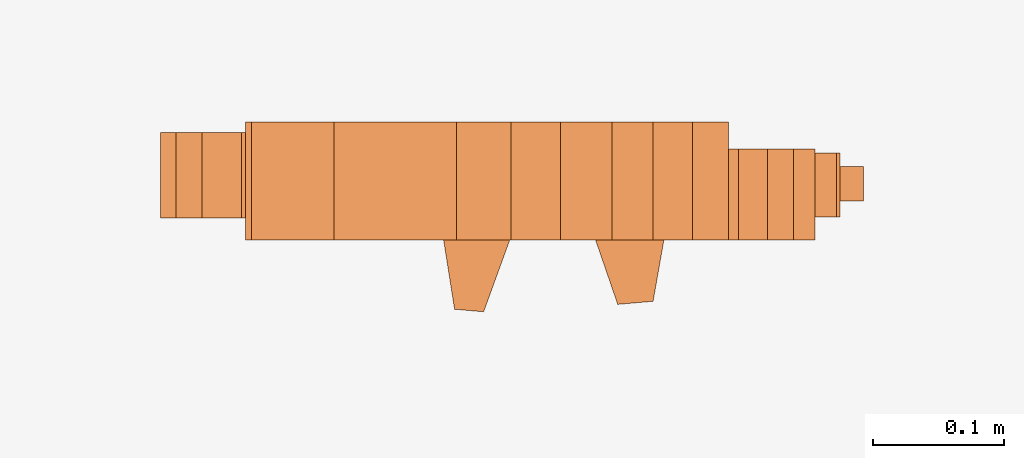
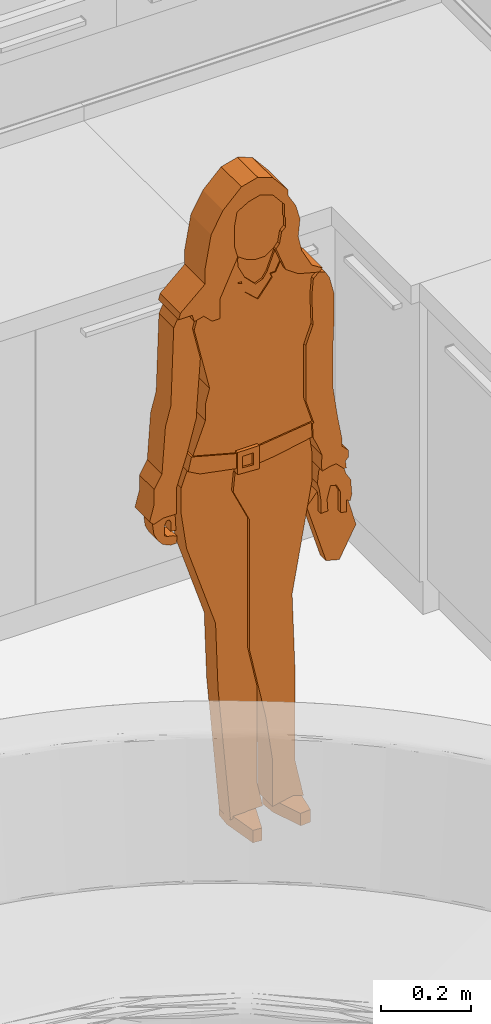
# One storey, part 7 of 7: 1 proxy.
"""IFC2X3 building model written with IfcOpenShell, lengths in metres."""

from ifc_helpers import new_model, entity, si_unit, converted_unit, derived_unit, direction, frame, origin, place, context, subcontext, project, spatial, polyline, outline, extrude, source, transform, mapped, material, material_list, type_object, type_shapes, element, save


model = new_model("IFC2X3")

# Units and contexts
model_context = context("Model", 3, precision=1e-05, world=origin(), true_north=direction((6.123233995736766e-17, 1.0)))
body_context = subcontext(model_context, "Body", "Model", "MODEL_VIEW")
ifc_project = project(units=[si_unit("LENGTHUNIT", "METRE"), si_unit("AREAUNIT", "SQUARE_METRE"), converted_unit("PLANEANGLEUNIT", "DEGREE", entity("IfcPlaneAngleMeasure", 0.017453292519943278), si_unit("PLANEANGLEUNIT", "RADIAN"), dimensions=[0, 0, 0, 0, 0, 0, 0]), derived_unit("THERMALTRANSMITTANCEUNIT", [(si_unit("MASSUNIT", "GRAM", prefix="KILO"), 1), (si_unit("THERMODYNAMICTEMPERATUREUNIT", "KELVIN"), -1), (si_unit("TIMEUNIT", "SECOND"), -3)])], contexts=[model_context])

# Site, building, storey
site_placement = place(None, origin())
site = spatial("IfcSite", under=ifc_project, at=site_placement, Name="Default", CompositionType="ELEMENT")
building_placement = place(site_placement, origin())
building = spatial("IfcBuilding", under=site, at=building_placement, CompositionType="ELEMENT")
storey_placement = place(building_placement, origin())
storey = spatial("IfcBuildingStorey", under=building, at=storey_placement, Name="0 - Ground Floor", CompositionType="ELEMENT", Elevation=0.0)

# Proxy
ifc_material_1 = material(Name="Fabric - Red Brown")
ifc_material_2 = material(Name="Fabric - Dark Skin")
ifc_material_3 = material(Name="Fabric - White")
ifc_material_4 = material(Name="Fabric - Suit Green")
ifc_material_5 = material(Name="Fabric - Black")
ifc_material_6 = material(Name="Fabric - Yellow")
ifc_material_list = material_list([ifc_material_1, ifc_material_2, ifc_material_3, ifc_material_4, ifc_material_5, ifc_material_6])
building_element_proxy_type = type_object("IfcBuildingElementProxyType", Name="3D_Dian:Man", PredefinedType="NOTDEFINED", material=ifc_material_list)
shared_shape = source(origin(), body_context, "Body", "SweptSolid", [
    extrude(outline(polyline([(0.1589902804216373, -0.12666842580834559), (0.19372516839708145, -0.12666842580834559), (0.18947541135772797, -0.11080811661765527), (0.1263081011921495, -0.053932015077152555), (0.12630810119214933, -0.0139320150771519), (0.11067976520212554, 0.07470068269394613), (0.08002888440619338, 0.12999633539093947), (0.03308580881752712, 0.17693941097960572), (-0.008838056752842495, 0.18817287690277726), (-0.04657023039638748, 0.17443948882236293), (-0.08579704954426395, 0.12769078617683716), (-0.08579704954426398, 0.11282751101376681), (-0.10626665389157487, 0.07737311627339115), (-0.11697891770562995, 0.037394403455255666), (-0.11227513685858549, -0.007359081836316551), (-0.12115805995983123, -0.04914994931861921), (-0.147052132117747, -0.09784961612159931), (-0.17446588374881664, -0.11497962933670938), (-0.16603982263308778, -0.12340569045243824), (-0.11291390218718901, -0.1091706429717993), (-0.08014782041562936, -0.08622758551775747), (-0.055518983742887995, -0.022067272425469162), (-0.06456415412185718, -0.010897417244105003), (-0.06977359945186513, 0.018646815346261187), (-0.0801478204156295, 0.029021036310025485), (-0.08014782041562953, 0.0543617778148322), (-0.07705903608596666, 0.05745056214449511), (-0.07705903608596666, 0.09143263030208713), (-0.0478159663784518, 0.12628316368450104), (-0.014926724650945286, 0.1382538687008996), (0.014051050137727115, 0.13048929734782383), (0.04436193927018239, 0.11298929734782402), (0.05032831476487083, 0.07915230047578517), (0.0503283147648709, 0.019152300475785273), (0.042563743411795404, -0.00982547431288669), (0.08818672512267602, -0.10766427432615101), (0.08818672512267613, -0.16065844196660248), (0.10818672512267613, -0.16065844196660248), (0.12939992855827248, -0.139445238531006), (0.15381389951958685, -0.14598694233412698), (0.1589902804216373, -0.12666842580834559)])), frame((-0.03709830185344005, -0.05, 1.5664962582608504), z_axis=(0.0, 1.0, 0.0), x_axis=(-1.0, 0.0, 0.0)), (0.0, 0.0, 1.0), 0.08999999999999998),
    extrude(outline(polyline([(-0.010593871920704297, -0.10141785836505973), (0.019406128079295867, -0.10141785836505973), (0.04962252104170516, -0.08175695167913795), (0.06884917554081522, -0.04052525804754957), (0.060053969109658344, -0.007701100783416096), (0.06223806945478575, -0.003918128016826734), (0.05567940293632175, 0.020559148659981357), (0.04297362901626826, 0.027894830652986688), (0.030295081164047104, 0.05508406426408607), (0.018667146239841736, 0.06353225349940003), (0.005405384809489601, 0.06862296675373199), (-0.008598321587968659, 0.07399848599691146), (-0.030740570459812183, 0.06806548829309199), (-0.050364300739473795, 0.05580322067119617), (-0.06685213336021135, 0.03683613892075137), (-0.07290508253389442, 0.024425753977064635), (-0.07290508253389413, -0.00367809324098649), (-0.05737593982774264, -0.06163364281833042), (-0.04285520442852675, -0.0927734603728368), (-0.010593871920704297, -0.10141785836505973)])), frame((-0.016053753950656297, -0.041239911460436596, 1.6009650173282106), z_axis=(0.0, 1.0, 0.0), x_axis=(0.9659258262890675, 0.0, 0.2588190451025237)), (0.0, 0.0, 1.0), 0.06576207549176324),
    extrude(outline(polyline([(-0.02608252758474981, 0.012991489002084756), (-0.04994405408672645, 0.02028668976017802), (-0.04994405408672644, 0.011563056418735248), (-0.04241204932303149, -0.006181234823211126), (-0.017553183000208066, -0.033789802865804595), (0.017764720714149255, -0.05256866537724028), (0.033524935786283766, -0.0402554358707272), (0.03937236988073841, -0.021129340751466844), (0.04320897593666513, 0.03373668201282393), (0.03619613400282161, 0.042712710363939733), (0.018811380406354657, 0.019642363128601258), (-0.0029426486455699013, 0.012991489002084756), (-0.02608252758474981, 0.012991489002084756)])), frame((-0.029114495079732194, -0.03349859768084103, 1.513978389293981), z_axis=(0.0, -1.0, 0.0), x_axis=(0.9563047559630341, 0.0, -0.2923717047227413)), (0.0, 0.0, -1.0), 0.05278045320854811),
    extrude(outline(polyline([(-0.03755104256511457, -0.0568855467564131), (-0.009195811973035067, -0.0568855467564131), (-0.00357895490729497, -0.04529965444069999), (0.00454244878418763, -0.05396750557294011), (0.06229267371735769, -0.04154915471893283), (0.04940847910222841, 0.0029846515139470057), (0.026623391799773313, 0.02122789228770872), (0.030985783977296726, 0.03022619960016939), (-0.006072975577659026, 0.06977845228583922), (-0.037854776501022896, 0.07025784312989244), (-0.03385230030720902, 0.05872271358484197), (-0.025184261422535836, 0.05737088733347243), (-0.008198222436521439, 0.04681273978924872), (0.014964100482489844, 0.01724091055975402), (0.027713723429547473, -0.019503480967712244), (0.013119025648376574, -0.0331780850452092), (-0.006679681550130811, -0.03600849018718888), (-0.061481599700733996, -0.031344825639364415), (-0.03755104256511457, -0.0568855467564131)])), frame((-0.03295561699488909, -0.03825621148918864, 1.491958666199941), z_axis=(0.0, 1.0, 0.0), x_axis=(-0.43623921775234, 0.0, -0.8998307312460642)), (0.0, 0.0, 1.0), 0.07019164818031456),
    extrude(outline(polyline([(-0.022237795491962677, 0.1583555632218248), (-0.04048523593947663, 0.17066361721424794), (-0.03598312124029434, 0.14266808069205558), (-0.04653022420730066, 0.13528291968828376), (-0.03668284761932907, 0.12864078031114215), (-0.03977434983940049, 0.06965140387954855), (-0.0857889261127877, 0.07530128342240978), (-0.1052499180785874, 0.09293574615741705), (-0.11560997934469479, 0.08916499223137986), (-0.1605445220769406, 0.11947372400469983), (-0.14731813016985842, 0.044463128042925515), (-0.11692192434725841, 0.001052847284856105), (-0.13330496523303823, -0.010418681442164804), (-0.16822486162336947, -0.004261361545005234), (-0.16986662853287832, -0.01357228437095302), (-0.15792212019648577, -0.04638955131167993), (-0.027871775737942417, -0.16348740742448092), (-0.013950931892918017, -0.20188378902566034), (0.011860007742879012, -0.2387456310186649), (0.03372158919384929, -0.32642764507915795), (0.13714088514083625, -0.28893234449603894), (0.18629000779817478, -0.25451775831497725), (0.2903302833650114, -0.16083947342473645), (0.23298129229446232, -0.11603353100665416), (0.14967414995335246, 0.0029413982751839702), (0.1357852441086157, 0.05477550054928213), (0.11571006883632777, 0.08344582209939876), (0.08862839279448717, 0.11938442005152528), (0.06612839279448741, 0.15835556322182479), (0.06944529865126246, 0.17716667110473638), (0.017762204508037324, 0.15835556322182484), (-0.022237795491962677, 0.1583555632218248)])), frame((-0.03011208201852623, -0.041239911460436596, 1.3379117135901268), z_axis=(0.0, -1.0, 0.0), x_axis=(0.819152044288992, 0.0, -0.5735764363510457)), (0.0, 0.0, -1.0), 0.06576207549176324),
    extrude(outline(polyline([(-0.26499845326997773, 0.1029186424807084), (-0.27024106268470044, 0.08335295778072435), (-0.26581516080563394, 0.07568707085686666), (-0.2449984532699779, 0.05821977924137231), (-0.045447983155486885, -0.0027889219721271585), (0.001529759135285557, -0.02991153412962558), (0.11971958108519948, -0.07060755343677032), (0.14800385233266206, -0.09889182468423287), (0.1866408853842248, -0.10924458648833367), (0.2256120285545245, -0.13174458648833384), (0.23860240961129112, -0.12424458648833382), (0.2364450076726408, -0.09958536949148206), (0.2455036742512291, -0.06577796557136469), (0.21169627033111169, -0.05671929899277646), (0.17788886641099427, -0.04766063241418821), (0.10442721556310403, 4.5921455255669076e-05), (0.02215480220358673, 0.04754592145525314), (0.00283628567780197, 0.052722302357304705), (-0.12480872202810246, 0.09667400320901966), (-0.21475389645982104, 0.09981495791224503), (-0.2449984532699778, 0.11727666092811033), (-0.24499845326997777, 0.1029186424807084), (-0.26499845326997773, 0.1029186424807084)])), frame((-0.22691371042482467, -0.033498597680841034, 1.157221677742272), z_axis=(0.0, -1.0, 0.0), x_axis=(0.25881904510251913, 0.0, -0.9659258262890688)), (0.0, 0.0, -1.0), 0.06543403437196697),
    extrude(outline(polyline([(-0.01629762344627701, -0.04155939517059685), (0.018702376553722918, -0.04155939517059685), (0.020010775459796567, -0.01659365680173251), (0.021319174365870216, 0.008372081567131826), (0.007739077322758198, 0.005977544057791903), (0.008860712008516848, -0.0068427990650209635), (0.008860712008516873, -0.018038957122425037), (0.004336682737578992, -0.025874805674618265), (-0.0028961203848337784, -0.025874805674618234), (-0.007658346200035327, -0.015662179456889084), (-0.007658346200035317, -0.004465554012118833), (-0.007658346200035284, 0.012765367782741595), (-0.0014079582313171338, 0.0171419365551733), (0.013205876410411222, 0.01971874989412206), (0.02425379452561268, 0.024870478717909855), (0.022634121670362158, 0.043383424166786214), (0.006336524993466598, 0.04338342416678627), (-0.012619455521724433, 0.034544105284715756), (-0.025190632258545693, 0.02008262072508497), (-0.035314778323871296, -0.0006749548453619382), (-0.03955822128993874, -0.03309322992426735), (-0.01629762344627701, -0.04155939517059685)])), frame((-0.24561169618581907, -0.02666762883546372, 0.8614993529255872), z_axis=(0.0, 1.0, 0.0), x_axis=(1.0, 0.0, 0.0)), (0.0, 0.0, 1.0), 0.03872166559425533),
    extrude(outline(polyline([(-0.057351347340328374, 0.05061627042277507), (-0.0665862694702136, 0.03879610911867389), (-0.0748722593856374, 0.024444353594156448), (-0.06760440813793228, 0.011856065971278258), (-0.04783312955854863, -0.012559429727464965), (-0.0338607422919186, -0.019988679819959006), (-0.006546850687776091, -0.04057117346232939), (0.018201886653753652, -0.06531991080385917), (0.029844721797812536, -0.05192636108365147), (0.005499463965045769, -0.030763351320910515), (-0.005901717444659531, -0.011015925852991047), (-0.011908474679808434, -0.0006119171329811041), (0.001868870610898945, 0.007342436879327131), (0.025361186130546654, -0.0012080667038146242), (0.06425205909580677, -0.040098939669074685), (0.07720809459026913, -0.032618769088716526), (0.05386974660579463, -0.009280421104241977), (0.06485680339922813, -0.006336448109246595), (0.05645858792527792, 0.008209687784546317), (0.026270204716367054, 0.034452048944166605), (0.002053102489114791, 0.04094100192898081), (-0.024435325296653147, 0.055025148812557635), (-0.028844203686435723, 0.05061627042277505), (-0.057351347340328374, 0.05061627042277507)])), frame((0.17683428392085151, -0.03271420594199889, 0.832762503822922), z_axis=(0.0, -1.0, 0.0), x_axis=(0.707106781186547, 0.0, -0.7071067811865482)), (0.0, 0.0, -1.0), 0.04887722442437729),
    extrude(outline(polyline([(-0.021991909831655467, -0.06420066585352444), (0.020030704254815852, -0.06420066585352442), (0.008013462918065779, -0.05085416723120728), (-0.01879809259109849, -0.028356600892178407), (-0.006470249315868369, -0.015590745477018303), (0.016734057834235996, -0.037998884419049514), (0.04828795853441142, -0.05271270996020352), (0.055011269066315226, -0.03829452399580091), (0.044445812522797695, -0.01563682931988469), (0.0019869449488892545, 0.01999039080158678), (0.008125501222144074, 0.03315456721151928), (0.03347607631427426, 0.011882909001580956), (0.03589467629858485, 0.0232615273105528), (-0.010376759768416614, 0.0910889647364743), (-0.09978890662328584, 0.11009410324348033), (-0.11458054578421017, 0.07837333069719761), (-0.021991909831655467, -0.06420066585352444)])), frame((0.17732240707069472, -0.020272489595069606, 0.7698765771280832), z_axis=(0.0, 1.0, 0.0), x_axis=(0.6427876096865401, 0.0, 0.7660444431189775)), (0.0, 0.0, 1.0), 0.026321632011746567),
    extrude(outline(polyline([(-0.030058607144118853, 0.020781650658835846), (-0.1416336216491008, 0.05082752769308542), (-0.1501188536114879, 0.014073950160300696), (-0.12005909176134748, -0.002588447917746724), (-0.0268045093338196, -0.020715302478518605), (-0.026804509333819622, -0.03343411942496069), (0.02892910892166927, -0.03659089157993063), (0.02892910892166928, -0.026590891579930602), (0.0753414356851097, -0.02089217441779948), (0.16722796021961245, -0.003031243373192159), (0.16511018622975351, 0.03737829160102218), (0.029941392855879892, 0.02078165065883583), (-0.030058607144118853, 0.020781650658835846)])), frame((-0.05343902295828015, -0.04488471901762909, 1.0017897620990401), z_axis=(0.0, -1.0, 0.0), x_axis=(1.0, 0.0, 0.0)), (0.0, 0.0, -1.0), 0.07312422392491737),
    extrude(outline(polyline([(0.36946780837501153, -0.053031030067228), (0.3792406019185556, -0.053031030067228), (0.3851318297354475, -0.005050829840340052), (0.40184352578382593, 0.080923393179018), (0.36223280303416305, 0.08649031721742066), (0.278655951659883, 0.08649031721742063), (0.1309347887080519, 0.060443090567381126), (-0.006938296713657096, 0.036132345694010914), (-0.21681037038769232, 0.043461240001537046), (-0.4590636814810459, 0.04346124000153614), (-0.5630265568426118, 0.06555923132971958), (-0.5536791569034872, 0.03987746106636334), (-0.5652544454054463, -0.014579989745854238), (-0.4348968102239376, -0.014579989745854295), (-0.31759467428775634, -0.031065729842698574), (-0.11791157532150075, -0.07350968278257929), (0.23344092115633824, -0.07350968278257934), (0.32178569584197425, -0.11470552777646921), (0.3724416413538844, -0.10977514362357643), (0.36946780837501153, -0.053031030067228)])), frame((0.028521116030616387, -0.041239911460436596, 0.5959582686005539), z_axis=(0.0, 1.0, 0.0), x_axis=(0.0, 0.0, 1.0)), (0.0, 0.0, 1.0), 0.06576207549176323),
    extrude(outline(polyline([(-0.14778795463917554, -0.39415982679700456), (-0.05278795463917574, -0.39415982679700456), (-0.05036108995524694, -0.38167469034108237), (-0.04609559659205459, -0.330253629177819), (0.01076028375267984, -0.2519982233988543), (0.07780150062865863, 0.09289893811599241), (0.12400653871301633, 0.20175118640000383), (0.1736168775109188, 0.4569742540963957), (0.2005317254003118, 0.5203816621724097), (0.1627989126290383, 0.5277161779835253), (0.12130816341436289, 0.5453279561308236), (0.09038678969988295, 0.43749231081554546), (0.0200992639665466, 0.19237057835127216), (-0.020391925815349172, 0.016983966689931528), (-0.13674623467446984, -0.19292476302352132), (-0.16930305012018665, -0.2874766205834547), (-0.18265967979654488, -0.35619052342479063), (-0.1751765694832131, -0.40305892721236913), (-0.14778795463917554, -0.39415982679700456)])), frame((-0.10363468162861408, -0.033498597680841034, 0.5840840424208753), z_axis=(0.0, 1.0, 0.0), x_axis=(0.981627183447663, 0.0, -0.19080899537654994)), (0.0, 0.0, 1.0), 0.05030756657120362),
    extrude(outline(polyline([(-0.29364680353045, -0.16331193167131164), (-0.27364680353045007, -0.16331193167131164), (-0.22558371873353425, -0.14953006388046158), (-0.17215946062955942, -0.11868555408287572), (-0.09729540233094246, -0.07190529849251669), (-0.009173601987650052, -0.02102815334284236), (0.06963702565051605, 0.010813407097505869), (0.130717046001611, 0.03304471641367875), (0.14803755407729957, 0.04304471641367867), (0.17020993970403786, 0.03710364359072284), (0.18753044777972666, 0.0471036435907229), (0.1901186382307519, 0.05676290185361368), (0.20778338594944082, 0.06454900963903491), (0.20473067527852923, 0.06983645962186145), (0.17743507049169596, 0.07715029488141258), (0.1712132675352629, 0.09126602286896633), (0.16614074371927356, 0.11161080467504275), (0.15204535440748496, 0.10648050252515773), (0.1281428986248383, 0.09035809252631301), (0.09357380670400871, 0.08488288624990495), (0.07034821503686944, 0.08297575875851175), (0.03429364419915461, 0.06460503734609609), (0.036141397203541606, 0.06140463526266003), (-0.03206450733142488, 0.045658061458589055), (-0.16196831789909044, -0.02934193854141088), (-0.19572480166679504, -0.06957134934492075), (-0.266360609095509, -0.10712907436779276), (-0.3032224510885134, -0.1329400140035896), (-0.30725263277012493, -0.15189528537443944), (-0.29364680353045, -0.16331193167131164)])), frame((0.15047394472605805, -0.05, 1.101169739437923), z_axis=(0.0, 1.0, 0.0), x_axis=(0.4999999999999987, 0.0, -0.8660254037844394)), (0.0, 0.0, 1.0), 0.0692818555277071),
    extrude(outline(polyline([(-0.027866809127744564, -0.030725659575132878), (0.027866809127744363, -0.030725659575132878), (0.027866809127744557, 0.03230404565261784), (-0.027866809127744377, 0.029147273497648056), (-0.027866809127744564, -0.030725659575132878)]), holes=[polyline([(0.012670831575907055, -0.016246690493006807), (-0.014627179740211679, -0.01624669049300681), (-0.014627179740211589, 0.01487312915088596), (0.012670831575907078, 0.01641929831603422), (0.012670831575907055, -0.016246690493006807)])]), frame((-0.05237672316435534, -0.05, 0.9966570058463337), z_axis=(0.0, 1.0, 0.0), x_axis=(1.0, 0.0, 0.0)), (0.0, 0.0, 1.0), 0.08289102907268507),
    extrude(outline(polyline([(-0.02053987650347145, -0.03068768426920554), (0.06229375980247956, -0.030687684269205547), (0.0688400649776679, -0.004431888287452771), (-0.010801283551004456, 0.039714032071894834), (-0.0413484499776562, 0.047330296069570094), (-0.05844421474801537, -0.021237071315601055), (-0.02053987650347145, -0.03068768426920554)])), frame((0.06173761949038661, -0.030389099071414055, 0.0), z_axis=(0.0, 0.0, 1.0), x_axis=(0.32556815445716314, -0.9455185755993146, 0.0)), (0.0, 0.0, 1.0), 0.03373683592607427),
    extrude(outline(polyline([(-0.023558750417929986, -0.029905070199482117), (0.06891689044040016, -0.029905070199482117), (0.07429242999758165, -0.008344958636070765), (-0.013820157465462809, 0.04049664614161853), (-0.04436732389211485, 0.048112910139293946), (-0.061463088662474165, -0.020454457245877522), (-0.023558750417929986, -0.029905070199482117)])), frame((-0.052711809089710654, -0.030249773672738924, 0.0), z_axis=(0.0, 0.0, 1.0), x_axis=(0.15643446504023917, -0.9876883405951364, 0.0)), (0.0, 0.0, 1.0), 0.03373683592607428),
])
type_shapes(building_element_proxy_type, [shared_shape])
proxy_placement = place(storey_placement, frame((2.0298210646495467, 2.0981031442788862, 0.0)))
element("IfcBuildingElementProxy", 1, at=proxy_placement, inside=storey, type_object=building_element_proxy_type, material=ifc_material_list, Name="3D_Dian:Man", ObjectType="3D_Dian:Man", context=body_context, shape_type="MappedRepresentation", body=[
    mapped(shared_shape, transform((0.0, 0.0, 0.0), scale=1.0)),
])

save(model, "model.ifc")
